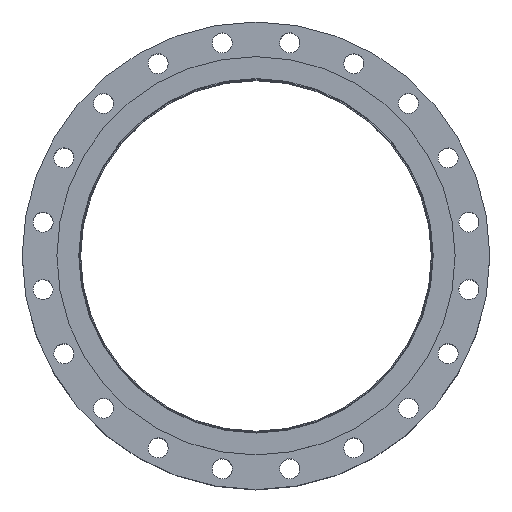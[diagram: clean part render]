
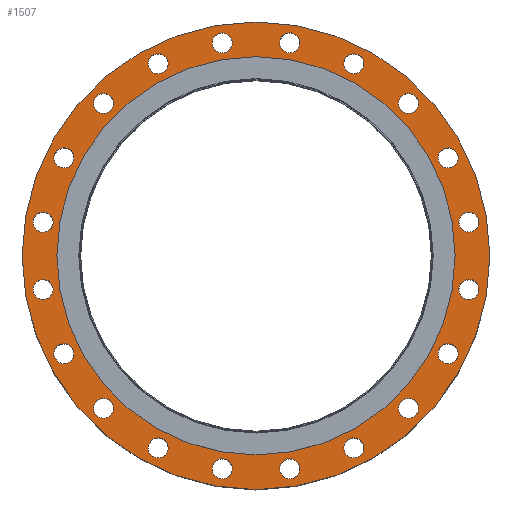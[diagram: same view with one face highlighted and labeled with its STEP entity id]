
A CAD part, top view. The second image highlights one B-rep face of the part: STEP entity #1507.
In plain terms, the highlighted planar face has unit normal (0, 0, 1).
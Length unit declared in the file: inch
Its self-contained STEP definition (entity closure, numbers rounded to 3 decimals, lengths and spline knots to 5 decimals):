
#96=FACE_BOUND('',#391,.T.);
#97=FACE_BOUND('',#392,.T.);
#98=FACE_BOUND('',#393,.T.);
#99=FACE_BOUND('',#394,.T.);
#100=FACE_BOUND('',#395,.T.);
#101=FACE_BOUND('',#396,.T.);
#102=FACE_BOUND('',#397,.T.);
#103=FACE_BOUND('',#398,.T.);
#104=FACE_BOUND('',#399,.T.);
#105=FACE_BOUND('',#400,.T.);
#106=FACE_BOUND('',#401,.T.);
#107=FACE_BOUND('',#402,.T.);
#108=FACE_BOUND('',#403,.T.);
#109=FACE_BOUND('',#404,.T.);
#110=FACE_BOUND('',#405,.T.);
#111=FACE_BOUND('',#406,.T.);
#112=FACE_BOUND('',#407,.T.);
#113=FACE_BOUND('',#408,.T.);
#114=FACE_BOUND('',#409,.T.);
#115=FACE_BOUND('',#410,.T.);
#116=FACE_BOUND('',#411,.T.);
#158=PLANE('',#1716);
#261=FACE_OUTER_BOUND('',#390,.T.);
#390=EDGE_LOOP('',(#1197));
#391=EDGE_LOOP('',(#1198));
#392=EDGE_LOOP('',(#1199));
#393=EDGE_LOOP('',(#1200));
#394=EDGE_LOOP('',(#1201));
#395=EDGE_LOOP('',(#1202));
#396=EDGE_LOOP('',(#1203));
#397=EDGE_LOOP('',(#1204));
#398=EDGE_LOOP('',(#1205));
#399=EDGE_LOOP('',(#1206));
#400=EDGE_LOOP('',(#1207));
#401=EDGE_LOOP('',(#1208));
#402=EDGE_LOOP('',(#1209));
#403=EDGE_LOOP('',(#1210));
#404=EDGE_LOOP('',(#1211));
#405=EDGE_LOOP('',(#1212));
#406=EDGE_LOOP('',(#1213));
#407=EDGE_LOOP('',(#1214));
#408=EDGE_LOOP('',(#1215));
#409=EDGE_LOOP('',(#1216));
#410=EDGE_LOOP('',(#1217));
#411=EDGE_LOOP('',(#1218));
#583=CIRCLE('',#1635,0.6875);
#585=CIRCLE('',#1638,0.6875);
#587=CIRCLE('',#1641,0.6875);
#589=CIRCLE('',#1644,0.6875);
#591=CIRCLE('',#1647,0.6875);
#593=CIRCLE('',#1650,0.6875);
#595=CIRCLE('',#1653,0.6875);
#597=CIRCLE('',#1656,0.6875);
#599=CIRCLE('',#1659,0.6875);
#601=CIRCLE('',#1662,0.6875);
#603=CIRCLE('',#1665,0.6875);
#605=CIRCLE('',#1668,0.6875);
#607=CIRCLE('',#1671,0.6875);
#609=CIRCLE('',#1674,0.6875);
#611=CIRCLE('',#1677,0.6875);
#613=CIRCLE('',#1680,0.6875);
#615=CIRCLE('',#1683,0.6875);
#617=CIRCLE('',#1686,0.6875);
#619=CIRCLE('',#1689,0.6875);
#621=CIRCLE('',#1692,0.6875);
#634=CIRCLE('',#1711,13.625);
#636=CIRCLE('',#1715,16.);
#747=VERTEX_POINT('',#2530);
#749=VERTEX_POINT('',#2536);
#751=VERTEX_POINT('',#2542);
#753=VERTEX_POINT('',#2548);
#755=VERTEX_POINT('',#2554);
#757=VERTEX_POINT('',#2560);
#759=VERTEX_POINT('',#2566);
#761=VERTEX_POINT('',#2572);
#763=VERTEX_POINT('',#2578);
#765=VERTEX_POINT('',#2584);
#767=VERTEX_POINT('',#2590);
#769=VERTEX_POINT('',#2596);
#771=VERTEX_POINT('',#2602);
#773=VERTEX_POINT('',#2608);
#775=VERTEX_POINT('',#2614);
#777=VERTEX_POINT('',#2620);
#779=VERTEX_POINT('',#2626);
#781=VERTEX_POINT('',#2632);
#783=VERTEX_POINT('',#2638);
#785=VERTEX_POINT('',#2644);
#796=VERTEX_POINT('',#2676);
#798=VERTEX_POINT('',#2683);
#875=EDGE_CURVE('',#747,#747,#583,.T.);
#878=EDGE_CURVE('',#749,#749,#585,.T.);
#881=EDGE_CURVE('',#751,#751,#587,.T.);
#884=EDGE_CURVE('',#753,#753,#589,.T.);
#887=EDGE_CURVE('',#755,#755,#591,.T.);
#890=EDGE_CURVE('',#757,#757,#593,.T.);
#893=EDGE_CURVE('',#759,#759,#595,.T.);
#896=EDGE_CURVE('',#761,#761,#597,.T.);
#899=EDGE_CURVE('',#763,#763,#599,.T.);
#902=EDGE_CURVE('',#765,#765,#601,.T.);
#905=EDGE_CURVE('',#767,#767,#603,.T.);
#908=EDGE_CURVE('',#769,#769,#605,.T.);
#911=EDGE_CURVE('',#771,#771,#607,.T.);
#914=EDGE_CURVE('',#773,#773,#609,.T.);
#917=EDGE_CURVE('',#775,#775,#611,.T.);
#920=EDGE_CURVE('',#777,#777,#613,.T.);
#923=EDGE_CURVE('',#779,#779,#615,.T.);
#926=EDGE_CURVE('',#781,#781,#617,.T.);
#929=EDGE_CURVE('',#783,#783,#619,.T.);
#932=EDGE_CURVE('',#785,#785,#621,.T.);
#948=EDGE_CURVE('',#796,#796,#634,.T.);
#950=EDGE_CURVE('',#798,#798,#636,.T.);
#1197=ORIENTED_EDGE('',*,*,#950,.T.);
#1198=ORIENTED_EDGE('',*,*,#875,.T.);
#1199=ORIENTED_EDGE('',*,*,#878,.T.);
#1200=ORIENTED_EDGE('',*,*,#881,.T.);
#1201=ORIENTED_EDGE('',*,*,#884,.T.);
#1202=ORIENTED_EDGE('',*,*,#887,.T.);
#1203=ORIENTED_EDGE('',*,*,#890,.T.);
#1204=ORIENTED_EDGE('',*,*,#893,.T.);
#1205=ORIENTED_EDGE('',*,*,#896,.T.);
#1206=ORIENTED_EDGE('',*,*,#899,.T.);
#1207=ORIENTED_EDGE('',*,*,#902,.T.);
#1208=ORIENTED_EDGE('',*,*,#905,.T.);
#1209=ORIENTED_EDGE('',*,*,#908,.T.);
#1210=ORIENTED_EDGE('',*,*,#911,.T.);
#1211=ORIENTED_EDGE('',*,*,#914,.T.);
#1212=ORIENTED_EDGE('',*,*,#917,.T.);
#1213=ORIENTED_EDGE('',*,*,#920,.T.);
#1214=ORIENTED_EDGE('',*,*,#923,.T.);
#1215=ORIENTED_EDGE('',*,*,#926,.T.);
#1216=ORIENTED_EDGE('',*,*,#929,.T.);
#1217=ORIENTED_EDGE('',*,*,#932,.T.);
#1218=ORIENTED_EDGE('',*,*,#948,.T.);
#1507=ADVANCED_FACE('',(#261,#96,#97,#98,#99,#100,#101,#102,#103,#104,#105,
#106,#107,#108,#109,#110,#111,#112,#113,#114,#115,#116),#158,.T.);
#1635=AXIS2_PLACEMENT_3D('',#2531,#1927,#1928);
#1638=AXIS2_PLACEMENT_3D('',#2537,#1934,#1935);
#1641=AXIS2_PLACEMENT_3D('',#2543,#1941,#1942);
#1644=AXIS2_PLACEMENT_3D('',#2549,#1948,#1949);
#1647=AXIS2_PLACEMENT_3D('',#2555,#1955,#1956);
#1650=AXIS2_PLACEMENT_3D('',#2561,#1962,#1963);
#1653=AXIS2_PLACEMENT_3D('',#2567,#1969,#1970);
#1656=AXIS2_PLACEMENT_3D('',#2573,#1976,#1977);
#1659=AXIS2_PLACEMENT_3D('',#2579,#1983,#1984);
#1662=AXIS2_PLACEMENT_3D('',#2585,#1990,#1991);
#1665=AXIS2_PLACEMENT_3D('',#2591,#1997,#1998);
#1668=AXIS2_PLACEMENT_3D('',#2597,#2004,#2005);
#1671=AXIS2_PLACEMENT_3D('',#2603,#2011,#2012);
#1674=AXIS2_PLACEMENT_3D('',#2609,#2018,#2019);
#1677=AXIS2_PLACEMENT_3D('',#2615,#2025,#2026);
#1680=AXIS2_PLACEMENT_3D('',#2621,#2032,#2033);
#1683=AXIS2_PLACEMENT_3D('',#2627,#2039,#2040);
#1686=AXIS2_PLACEMENT_3D('',#2633,#2046,#2047);
#1689=AXIS2_PLACEMENT_3D('',#2639,#2053,#2054);
#1692=AXIS2_PLACEMENT_3D('',#2645,#2060,#2061);
#1711=AXIS2_PLACEMENT_3D('',#2678,#2101,#2102);
#1715=AXIS2_PLACEMENT_3D('',#2684,#2109,#2110);
#1716=AXIS2_PLACEMENT_3D('',#2686,#2112,#2113);
#1927=DIRECTION('center_axis',(0.,0.,-1.));
#1928=DIRECTION('ref_axis',(0.951,-0.309,0.));
#1934=DIRECTION('center_axis',(0.,0.,-1.));
#1935=DIRECTION('ref_axis',(0.809,-0.588,0.));
#1941=DIRECTION('center_axis',(0.,0.,-1.));
#1942=DIRECTION('ref_axis',(0.588,-0.809,0.));
#1948=DIRECTION('center_axis',(0.,0.,-1.));
#1949=DIRECTION('ref_axis',(0.309,-0.951,0.));
#1955=DIRECTION('center_axis',(0.,0.,-1.));
#1956=DIRECTION('ref_axis',(0.,-1.,0.));
#1962=DIRECTION('center_axis',(0.,0.,-1.));
#1963=DIRECTION('ref_axis',(-0.309,-0.951,0.));
#1969=DIRECTION('center_axis',(0.,0.,-1.));
#1970=DIRECTION('ref_axis',(-0.588,-0.809,0.));
#1976=DIRECTION('center_axis',(0.,0.,-1.));
#1977=DIRECTION('ref_axis',(-0.809,-0.588,0.));
#1983=DIRECTION('center_axis',(0.,0.,-1.));
#1984=DIRECTION('ref_axis',(-0.951,-0.309,0.));
#1990=DIRECTION('center_axis',(0.,0.,-1.));
#1991=DIRECTION('ref_axis',(-1.,0.,0.));
#1997=DIRECTION('center_axis',(0.,0.,-1.));
#1998=DIRECTION('ref_axis',(-0.951,0.309,0.));
#2004=DIRECTION('center_axis',(0.,0.,-1.));
#2005=DIRECTION('ref_axis',(-0.809,0.588,0.));
#2011=DIRECTION('center_axis',(0.,0.,-1.));
#2012=DIRECTION('ref_axis',(-0.588,0.809,0.));
#2018=DIRECTION('center_axis',(0.,0.,-1.));
#2019=DIRECTION('ref_axis',(-0.309,0.951,0.));
#2025=DIRECTION('center_axis',(0.,0.,-1.));
#2026=DIRECTION('ref_axis',(0.,1.,0.));
#2032=DIRECTION('center_axis',(0.,0.,-1.));
#2033=DIRECTION('ref_axis',(0.309,0.951,0.));
#2039=DIRECTION('center_axis',(0.,0.,-1.));
#2040=DIRECTION('ref_axis',(0.588,0.809,0.));
#2046=DIRECTION('center_axis',(0.,0.,-1.));
#2047=DIRECTION('ref_axis',(0.809,0.588,0.));
#2053=DIRECTION('center_axis',(0.,0.,-1.));
#2054=DIRECTION('ref_axis',(0.951,0.309,0.));
#2060=DIRECTION('center_axis',(0.,0.,-1.));
#2061=DIRECTION('ref_axis',(1.,0.,0.));
#2101=DIRECTION('center_axis',(0.,0.,-1.));
#2102=DIRECTION('ref_axis',(0.,1.,0.));
#2109=DIRECTION('center_axis',(0.,0.,1.));
#2110=DIRECTION('ref_axis',(1.,0.,0.));
#2112=DIRECTION('center_axis',(0.,0.,1.));
#2113=DIRECTION('ref_axis',(1.,0.,0.));
#2530=CARTESIAN_POINT('',(1.65356,14.78085,0.905));
#2531=CARTESIAN_POINT('Origin',(2.30741,14.5684,0.905));
#2536=CARTESIAN_POINT('',(6.14016,13.54645,0.905));
#2537=CARTESIAN_POINT('Origin',(6.69636,13.14235,0.905));
#2542=CARTESIAN_POINT('',(10.02572,10.98602,0.905));
#2543=CARTESIAN_POINT('Origin',(10.42983,10.42983,0.905));
#2548=CARTESIAN_POINT('',(12.9299,7.35021,0.905));
#2549=CARTESIAN_POINT('Origin',(13.14235,6.69636,0.905));
#2554=CARTESIAN_POINT('',(14.5684,2.99491,0.905));
#2555=CARTESIAN_POINT('Origin',(14.5684,2.30741,0.905));
#2560=CARTESIAN_POINT('',(14.78085,-1.65356,0.905));
#2561=CARTESIAN_POINT('Origin',(14.5684,-2.30741,0.905));
#2566=CARTESIAN_POINT('',(13.54645,-6.14016,0.905));
#2567=CARTESIAN_POINT('Origin',(13.14235,-6.69636,0.905));
#2572=CARTESIAN_POINT('',(10.98602,-10.02572,0.905));
#2573=CARTESIAN_POINT('Origin',(10.42983,-10.42983,0.905));
#2578=CARTESIAN_POINT('',(7.35021,-12.9299,0.905));
#2579=CARTESIAN_POINT('Origin',(6.69636,-13.14235,0.905));
#2584=CARTESIAN_POINT('',(2.99491,-14.5684,0.905));
#2585=CARTESIAN_POINT('Origin',(2.30741,-14.5684,0.905));
#2590=CARTESIAN_POINT('',(-1.65356,-14.78085,0.905));
#2591=CARTESIAN_POINT('Origin',(-2.30741,-14.5684,0.905));
#2596=CARTESIAN_POINT('',(-6.14016,-13.54645,0.905));
#2597=CARTESIAN_POINT('Origin',(-6.69636,-13.14235,0.905));
#2602=CARTESIAN_POINT('',(-10.02572,-10.98602,0.905));
#2603=CARTESIAN_POINT('Origin',(-10.42983,-10.42983,0.905));
#2608=CARTESIAN_POINT('',(-12.9299,-7.35021,0.905));
#2609=CARTESIAN_POINT('Origin',(-13.14235,-6.69636,0.905));
#2614=CARTESIAN_POINT('',(-14.5684,-2.99491,0.905));
#2615=CARTESIAN_POINT('Origin',(-14.5684,-2.30741,0.905));
#2620=CARTESIAN_POINT('',(-14.78085,1.65356,0.905));
#2621=CARTESIAN_POINT('Origin',(-14.5684,2.30741,0.905));
#2626=CARTESIAN_POINT('',(-13.54645,6.14016,0.905));
#2627=CARTESIAN_POINT('Origin',(-13.14235,6.69636,0.905));
#2632=CARTESIAN_POINT('',(-10.98602,10.02572,0.905));
#2633=CARTESIAN_POINT('Origin',(-10.42983,10.42983,0.905));
#2638=CARTESIAN_POINT('',(-7.35021,12.9299,0.905));
#2639=CARTESIAN_POINT('Origin',(-6.69636,13.14235,0.905));
#2644=CARTESIAN_POINT('',(-2.99491,14.5684,0.905));
#2645=CARTESIAN_POINT('Origin',(-2.30741,14.5684,0.905));
#2676=CARTESIAN_POINT('',(0.,-13.625,0.905));
#2678=CARTESIAN_POINT('Origin',(0.,0.,0.905));
#2683=CARTESIAN_POINT('',(0.,-16.,0.905));
#2684=CARTESIAN_POINT('Origin',(0.,0.,0.905));
#2686=CARTESIAN_POINT('Origin',(0.,12.125,0.905));
